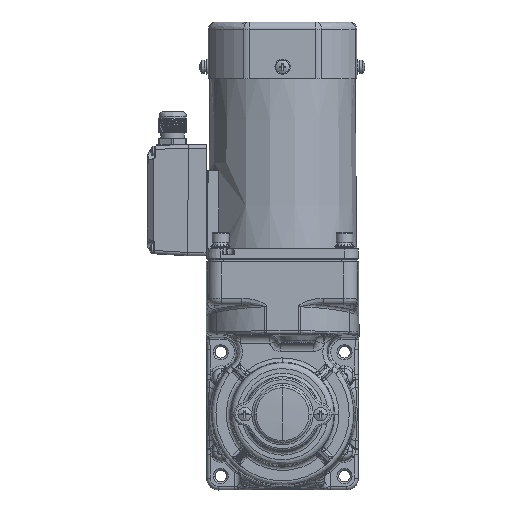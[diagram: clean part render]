
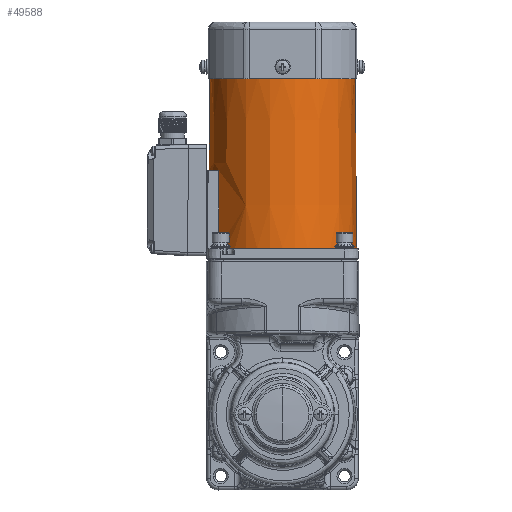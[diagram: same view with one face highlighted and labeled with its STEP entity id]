
A CAD part, left-side view. The second image highlights one B-rep face of the part: STEP entity #49588.
In plain terms, the highlighted conical face has half-angle 0.5 degrees and reference radius 44 mm.
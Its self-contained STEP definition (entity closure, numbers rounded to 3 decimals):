
#1884 = ORIENTED_EDGE ( 'NONE', *, *, #82298, .F. ) ;
#3165 = EDGE_LOOP ( 'NONE', ( #79645, #110648, #55492, #1884, #26900, #53693, #83179 ) ) ;
#4387 = EDGE_CURVE ( 'NONE', #93609, #66417, #67417, .T. ) ;
#5509 = LINE ( 'NONE', #114094, #47838 ) ;
#7193 = AXIS2_PLACEMENT_3D ( 'NONE', #42607, #13716, #13119 ) ;
#8725 = CARTESIAN_POINT ( 'NONE',  ( 37.147, 7.895, 132.5 ) ) ;
#11126 = CONICAL_SURFACE ( 'NONE', #70788, 44., 0.009 ) ;
#13119 = DIRECTION ( 'NONE',  ( -1., 0., 0. ) ) ;
#13716 = DIRECTION ( 'NONE',  ( 0., 0., -1. ) ) ;
#15981 = CARTESIAN_POINT ( 'NONE',  ( 42.636, -14.105, 179. ) ) ;
#17852 = DIRECTION ( 'NONE',  ( -1., 0., 0. ) ) ;
#18730 = CARTESIAN_POINT ( 'NONE',  ( -0.958, -14.105, 179. ) ) ;
#24731 = CARTESIAN_POINT ( 'NONE',  ( 36.917, 7.483, 178.78 ) ) ;
#26900 = ORIENTED_EDGE ( 'NONE', *, *, #74633, .T. ) ;
#29521 = CARTESIAN_POINT ( 'NONE',  ( 36.913, 7.492, 178.703 ) ) ;
#32071 = CIRCLE ( 'NONE', #74562, 44. ) ;
#34663 = CARTESIAN_POINT ( 'NONE',  ( 36.913, 7.492, 178.703 ) ) ;
#35694 = B_SPLINE_CURVE_WITH_KNOTS ( 'NONE', 3,
 ( #96503, #50083, #24731, #79000, #87473, #106738, #77826, #61506, #88642, #60323, #115795, #98898, #115196, #51278, #88053, #79610 ),
 .UNSPECIFIED., .F., .F.,
 ( 4, 2, 2, 1, 1, 2, 2, 2, 4 ),
 ( 0., 0.25, 0.375, 0.437, 0.469, 0.484, 0.5, 0.75, 1. ),
 .UNSPECIFIED. ) ;
#40960 = VECTOR ( 'NONE', #92792, 1000. ) ;
#42607 = CARTESIAN_POINT ( 'NONE',  ( -0.958, -14.105, 234.5 ) ) ;
#44866 = EDGE_CURVE ( 'NONE', #91214, #88645, #85930, .T. ) ;
#47838 = VECTOR ( 'NONE', #96581, 1000. ) ;
#49588 = ADVANCED_FACE ( 'NONE', ( #58467 ), #11126, .T. ) ;
#50083 = CARTESIAN_POINT ( 'NONE',  ( 36.913, 7.491, 178.741 ) ) ;
#51278 = CARTESIAN_POINT ( 'NONE',  ( 37.029, 7.284, 178.988 ) ) ;
#51708 = VERTEX_POINT ( 'NONE', #86845 ) ;
#53693 = ORIENTED_EDGE ( 'NONE', *, *, #78997, .T. ) ;
#55492 = ORIENTED_EDGE ( 'NONE', *, *, #44866, .T. ) ;
#58231 = VERTEX_POINT ( 'NONE', #29521 ) ;
#58467 = FACE_OUTER_BOUND ( 'NONE', #3165, .T. ) ;
#59790 = CARTESIAN_POINT ( 'NONE',  ( -44.958, -14.105, 132.5 ) ) ;
#60323 = CARTESIAN_POINT ( 'NONE',  ( 36.963, 7.399, 178.916 ) ) ;
#61506 = CARTESIAN_POINT ( 'NONE',  ( 36.958, 7.409, 178.907 ) ) ;
#66417 = VERTEX_POINT ( 'NONE', #59790 ) ;
#67417 = LINE ( 'NONE', #104208, #40960 ) ;
#68259 = VERTEX_POINT ( 'NONE', #99729 ) ;
#70788 = AXIS2_PLACEMENT_3D ( 'NONE', #99256, #74504, #17852 ) ;
#70885 = DIRECTION ( 'NONE',  ( -1., 0., 0. ) ) ;
#74504 = DIRECTION ( 'NONE',  ( 0., 0., -1. ) ) ;
#74562 = AXIS2_PLACEMENT_3D ( 'NONE', #82895, #119105, #70885 ) ;
#74633 = EDGE_CURVE ( 'NONE', #58231, #68259, #111919, .T. ) ;
#77826 = CARTESIAN_POINT ( 'NONE',  ( 36.951, 7.422, 178.893 ) ) ;
#78175 = AXIS2_PLACEMENT_3D ( 'NONE', #18730, #110985, #100749 ) ;
#78997 = EDGE_CURVE ( 'NONE', #68259, #66417, #32071, .T. ) ;
#79000 = CARTESIAN_POINT ( 'NONE',  ( 36.93, 7.459, 178.837 ) ) ;
#79610 = CARTESIAN_POINT ( 'NONE',  ( 37.08, 7.192, 179. ) ) ;
#79645 = ORIENTED_EDGE ( 'NONE', *, *, #93558, .T. ) ;
#82014 = EDGE_CURVE ( 'NONE', #51708, #91214, #5509, .T. ) ;
#82298 = EDGE_CURVE ( 'NONE', #58231, #88645, #35694, .T. ) ;
#82895 = CARTESIAN_POINT ( 'NONE',  ( -0.958, -14.105, 132.5 ) ) ;
#83179 = ORIENTED_EDGE ( 'NONE', *, *, #4387, .F. ) ;
#85930 = CIRCLE ( 'NONE', #78175, 43.594 ) ;
#86845 = CARTESIAN_POINT ( 'NONE',  ( 42.151, -14.105, 234.5 ) ) ;
#87473 = CARTESIAN_POINT ( 'NONE',  ( 36.936, 7.449, 178.855 ) ) ;
#88053 = CARTESIAN_POINT ( 'NONE',  ( 37.052, 7.241, 179. ) ) ;
#88642 = CARTESIAN_POINT ( 'NONE',  ( 36.961, 7.403, 178.913 ) ) ;
#88645 = VERTEX_POINT ( 'NONE', #115330 ) ;
#91214 = VERTEX_POINT ( 'NONE', #15981 ) ;
#92792 = DIRECTION ( 'NONE',  ( -0.009, 0., -1. ) ) ;
#93558 = EDGE_CURVE ( 'NONE', #93609, #51708, #95764, .T. ) ;
#93609 = VERTEX_POINT ( 'NONE', #105941 ) ;
#95764 = CIRCLE ( 'NONE', #7193, 43.11 ) ;
#96503 = CARTESIAN_POINT ( 'NONE',  ( 36.913, 7.492, 178.703 ) ) ;
#96581 = DIRECTION ( 'NONE',  ( 0.009, 0., -1. ) ) ;
#98898 = CARTESIAN_POINT ( 'NONE',  ( 36.976, 7.377, 178.937 ) ) ;
#99256 = CARTESIAN_POINT ( 'NONE',  ( -0.958, -14.105, 132.5 ) ) ;
#99729 = CARTESIAN_POINT ( 'NONE',  ( 37.147, 7.895, 132.5 ) ) ;
#100749 = DIRECTION ( 'NONE',  ( -1., 0., 0. ) ) ;
#104208 = CARTESIAN_POINT ( 'NONE',  ( -44.958, -14.105, 132.5 ) ) ;
#105941 = CARTESIAN_POINT ( 'NONE',  ( -44.068, -14.105, 234.5 ) ) ;
#106738 = CARTESIAN_POINT ( 'NONE',  ( 36.946, 7.431, 178.881 ) ) ;
#108253 = CARTESIAN_POINT ( 'NONE',  ( 37.069, 7.76, 147.901 ) ) ;
#108856 = CARTESIAN_POINT ( 'NONE',  ( 36.991, 7.626, 163.302 ) ) ;
#110648 = ORIENTED_EDGE ( 'NONE', *, *, #82014, .T. ) ;
#110985 = DIRECTION ( 'NONE',  ( 0., 0., 1. ) ) ;
#111919 = B_SPLINE_CURVE_WITH_KNOTS ( 'NONE', 3,
 ( #34663, #108856, #108253, #8725 ),
 .UNSPECIFIED., .F., .F.,
 ( 4, 4 ),
 ( 0., 0.046 ),
 .UNSPECIFIED. ) ;
#114094 = CARTESIAN_POINT ( 'NONE',  ( 43.042, -14.105, 132.5 ) ) ;
#115196 = CARTESIAN_POINT ( 'NONE',  ( 36.991, 7.352, 178.956 ) ) ;
#115330 = CARTESIAN_POINT ( 'NONE',  ( 37.08, 7.192, 179. ) ) ;
#115795 = CARTESIAN_POINT ( 'NONE',  ( 36.965, 7.397, 178.919 ) ) ;
#119105 = DIRECTION ( 'NONE',  ( 0., 0., 1. ) ) ;
